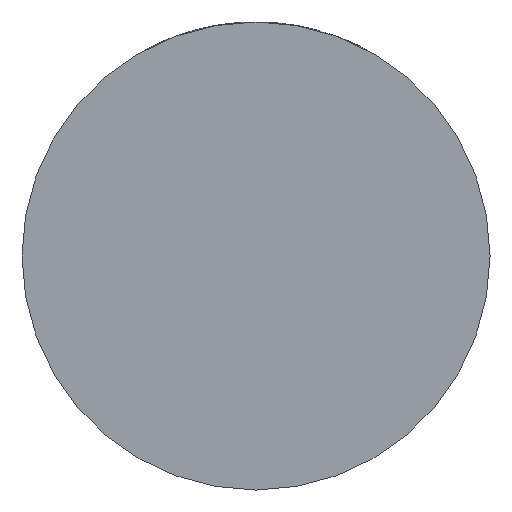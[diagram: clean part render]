
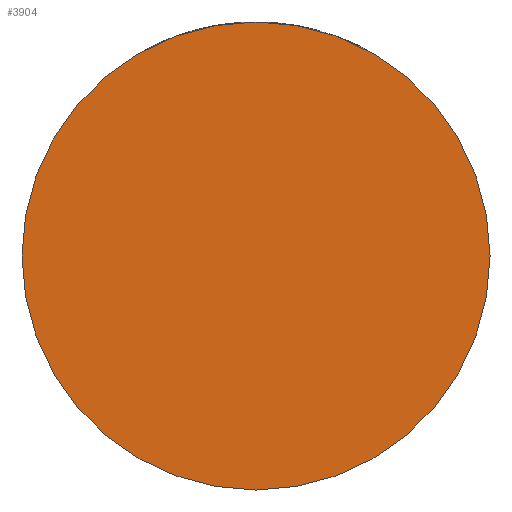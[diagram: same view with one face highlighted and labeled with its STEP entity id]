
A CAD part, front view. The second image highlights one B-rep face of the part: STEP entity #3904.
In plain terms, the highlighted planar face has unit normal (0, -1, 0).
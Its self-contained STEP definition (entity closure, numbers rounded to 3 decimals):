
#28 = CARTESIAN_POINT ( 'NONE',  ( 0., -36., 0. ) ) ;
#152 = DIRECTION ( 'NONE',  ( 1., 0., 0. ) ) ;
#169 = EDGE_CURVE ( 'NONE', #3362, #2905, #1248, .T. ) ;
#290 = CARTESIAN_POINT ( 'NONE',  ( -39., -36., 0. ) ) ;
#313 = ORIENTED_EDGE ( 'NONE', *, *, #169, .T. ) ;
#423 = DIRECTION ( 'NONE',  ( 0., -1., 0. ) ) ;
#445 = AXIS2_PLACEMENT_3D ( 'NONE', #28, #2812, #2470 ) ;
#549 = AXIS2_PLACEMENT_3D ( 'NONE', #1512, #423, #3900 ) ;
#831 = CARTESIAN_POINT ( 'NONE',  ( 0., -36., 0. ) ) ;
#907 = CIRCLE ( 'NONE', #977, 39. ) ;
#977 = AXIS2_PLACEMENT_3D ( 'NONE', #831, #3205, #152 ) ;
#1248 = CIRCLE ( 'NONE', #445, 39. ) ;
#1512 = CARTESIAN_POINT ( 'NONE',  ( 0., -36., 0. ) ) ;
#1757 = ORIENTED_EDGE ( 'NONE', *, *, #3117, .T. ) ;
#2452 = FACE_OUTER_BOUND ( 'NONE', #3568, .T. ) ;
#2470 = DIRECTION ( 'NONE',  ( 1., 0., 0. ) ) ;
#2812 = DIRECTION ( 'NONE',  ( 0., -1., 0. ) ) ;
#2905 = VERTEX_POINT ( 'NONE', #290 ) ;
#3117 = EDGE_CURVE ( 'NONE', #2905, #3362, #907, .T. ) ;
#3205 = DIRECTION ( 'NONE',  ( 0., -1., 0. ) ) ;
#3362 = VERTEX_POINT ( 'NONE', #3442 ) ;
#3442 = CARTESIAN_POINT ( 'NONE',  ( 39., -36., 0. ) ) ;
#3568 = EDGE_LOOP ( 'NONE', ( #1757, #313 ) ) ;
#3587 = PLANE ( 'NONE',  #549 ) ;
#3900 = DIRECTION ( 'NONE',  ( 1., 0., 0. ) ) ;
#3904 = ADVANCED_FACE ( 'NONE', ( #2452 ), #3587, .T. ) ;
